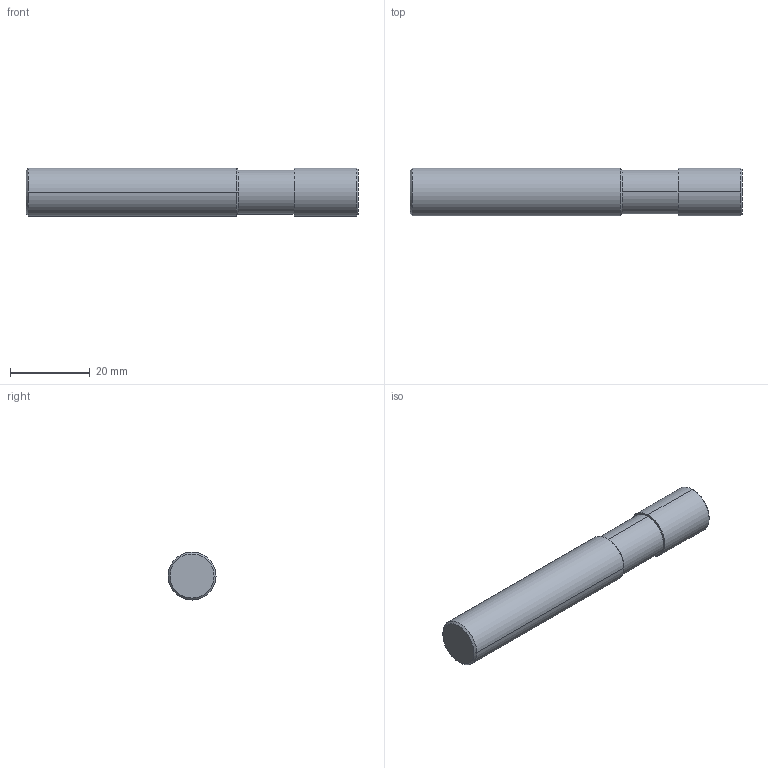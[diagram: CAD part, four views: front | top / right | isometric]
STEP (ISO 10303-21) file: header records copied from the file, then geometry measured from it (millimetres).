
FILE_DESCRIPTION (( 'STEP AP214' ), '1' );
FILE_NAME ('GMF61120.STEP', '2018-03-06T02:25:49', ( '' ), ( '' ), 'SwSTEP 2.0', 'SolidWorks 2014', '' );
FILE_SCHEMA (( 'AUTOMOTIVE_DESIGN' ));
Length unit declared in the file: millimetre
Products named in the file (1): GMF61120
Bounding box: 83 x 12 x 12 mm (x, y, z)
Volume: 9122.8 mm3; surface area: 3316.7 mm2
Topology: 1 solids, 1 shells, 15 faces, 30 edges, 18 vertices
Faces by surface type: cone 6, cylinder 6, plane 3
Entity records: 494 total; most frequent: DIRECTION 80, CARTESIAN_POINT 64, ORIENTED_EDGE 60, AXIS2_PLACEMENT_3D 34, EDGE_CURVE 30, VERTEX_POINT 18, CIRCLE 18, EDGE_LOOP 16
